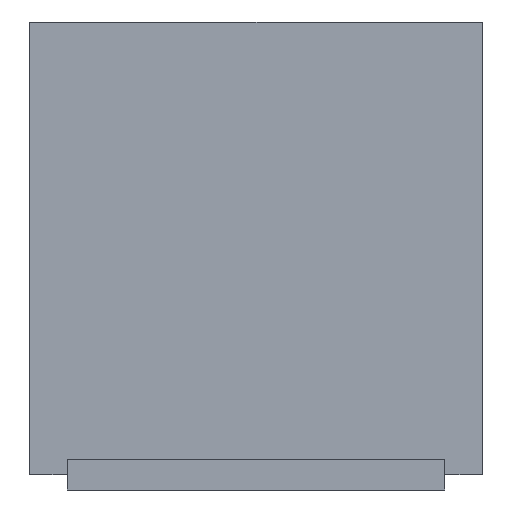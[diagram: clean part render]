
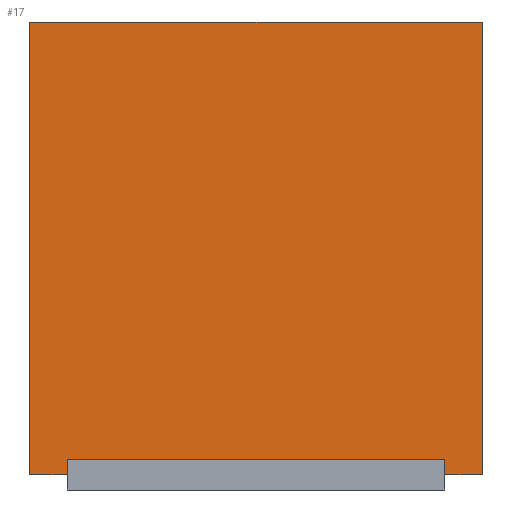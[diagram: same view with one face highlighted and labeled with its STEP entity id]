
A CAD part, left-side view. The second image highlights one B-rep face of the part: STEP entity #17.
In plain terms, the highlighted planar face has unit normal (-1, 0, 0).
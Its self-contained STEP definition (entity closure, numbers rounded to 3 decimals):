
#17 = ADVANCED_FACE('',(#18),#32,.F.);
#18 = FACE_BOUND('',#19,.F.);
#19 = EDGE_LOOP('',(#20,#55,#83,#111,#139,#167,#195,#218));
#20 = ORIENTED_EDGE('',*,*,#21,.F.);
#21 = EDGE_CURVE('',#22,#24,#26,.T.);
#22 = VERTEX_POINT('',#23);
#23 = CARTESIAN_POINT('',(546.,-30.,30.));
#24 = VERTEX_POINT('',#25);
#25 = CARTESIAN_POINT('',(546.,30.,30.));
#26 = SURFACE_CURVE('',#27,(#31,#43),.PCURVE_S1.);
#27 = LINE('',#28,#29);
#28 = CARTESIAN_POINT('',(546.,-30.,30.));
#29 = VECTOR('',#30,1.);
#30 = DIRECTION('',(0.,1.,0.));
#31 = PCURVE('',#32,#37);
#32 = PLANE('',#33);
#33 = AXIS2_PLACEMENT_3D('',#34,#35,#36);
#34 = CARTESIAN_POINT('',(546.,-30.,-30.));
#35 = DIRECTION('',(1.,0.,0.));
#36 = DIRECTION('',(0.,0.,1.));
#37 = DEFINITIONAL_REPRESENTATION('',(#38),#42);
#38 = LINE('',#39,#40);
#39 = CARTESIAN_POINT('',(60.,0.));
#40 = VECTOR('',#41,1.);
#41 = DIRECTION('',(0.,-1.));
#42 = ( GEOMETRIC_REPRESENTATION_CONTEXT(2) 
PARAMETRIC_REPRESENTATION_CONTEXT() REPRESENTATION_CONTEXT('2D SPACE',''
  ) );
#43 = PCURVE('',#44,#49);
#44 = PLANE('',#45);
#45 = AXIS2_PLACEMENT_3D('',#46,#47,#48);
#46 = CARTESIAN_POINT('',(546.,-30.,30.));
#47 = DIRECTION('',(0.,0.,1.));
#48 = DIRECTION('',(1.,0.,0.));
#49 = DEFINITIONAL_REPRESENTATION('',(#50),#54);
#50 = LINE('',#51,#52);
#51 = CARTESIAN_POINT('',(0.,0.));
#52 = VECTOR('',#53,1.);
#53 = DIRECTION('',(0.,1.));
#54 = ( GEOMETRIC_REPRESENTATION_CONTEXT(2) 
PARAMETRIC_REPRESENTATION_CONTEXT() REPRESENTATION_CONTEXT('2D SPACE',''
  ) );
#55 = ORIENTED_EDGE('',*,*,#56,.F.);
#56 = EDGE_CURVE('',#57,#22,#59,.T.);
#57 = VERTEX_POINT('',#58);
#58 = CARTESIAN_POINT('',(546.,-30.,-30.));
#59 = SURFACE_CURVE('',#60,(#64,#71),.PCURVE_S1.);
#60 = LINE('',#61,#62);
#61 = CARTESIAN_POINT('',(546.,-30.,-30.));
#62 = VECTOR('',#63,1.);
#63 = DIRECTION('',(0.,0.,1.));
#64 = PCURVE('',#32,#65);
#65 = DEFINITIONAL_REPRESENTATION('',(#66),#70);
#66 = LINE('',#67,#68);
#67 = CARTESIAN_POINT('',(0.,0.));
#68 = VECTOR('',#69,1.);
#69 = DIRECTION('',(1.,0.));
#70 = ( GEOMETRIC_REPRESENTATION_CONTEXT(2) 
PARAMETRIC_REPRESENTATION_CONTEXT() REPRESENTATION_CONTEXT('2D SPACE',''
  ) );
#71 = PCURVE('',#72,#77);
#72 = PLANE('',#73);
#73 = AXIS2_PLACEMENT_3D('',#74,#75,#76);
#74 = CARTESIAN_POINT('',(546.,-30.,-30.));
#75 = DIRECTION('',(0.,1.,0.));
#76 = DIRECTION('',(0.,0.,1.));
#77 = DEFINITIONAL_REPRESENTATION('',(#78),#82);
#78 = LINE('',#79,#80);
#79 = CARTESIAN_POINT('',(0.,0.));
#80 = VECTOR('',#81,1.);
#81 = DIRECTION('',(1.,0.));
#82 = ( GEOMETRIC_REPRESENTATION_CONTEXT(2) 
PARAMETRIC_REPRESENTATION_CONTEXT() REPRESENTATION_CONTEXT('2D SPACE',''
  ) );
#83 = ORIENTED_EDGE('',*,*,#84,.T.);
#84 = EDGE_CURVE('',#57,#85,#87,.T.);
#85 = VERTEX_POINT('',#86);
#86 = CARTESIAN_POINT('',(546.,-25.,-30.));
#87 = SURFACE_CURVE('',#88,(#92,#99),.PCURVE_S1.);
#88 = LINE('',#89,#90);
#89 = CARTESIAN_POINT('',(546.,-30.,-30.));
#90 = VECTOR('',#91,1.);
#91 = DIRECTION('',(0.,1.,0.));
#92 = PCURVE('',#32,#93);
#93 = DEFINITIONAL_REPRESENTATION('',(#94),#98);
#94 = LINE('',#95,#96);
#95 = CARTESIAN_POINT('',(0.,0.));
#96 = VECTOR('',#97,1.);
#97 = DIRECTION('',(0.,-1.));
#98 = ( GEOMETRIC_REPRESENTATION_CONTEXT(2) 
PARAMETRIC_REPRESENTATION_CONTEXT() REPRESENTATION_CONTEXT('2D SPACE',''
  ) );
#99 = PCURVE('',#100,#105);
#100 = PLANE('',#101);
#101 = AXIS2_PLACEMENT_3D('',#102,#103,#104);
#102 = CARTESIAN_POINT('',(546.,-30.,-30.));
#103 = DIRECTION('',(0.,0.,1.));
#104 = DIRECTION('',(1.,0.,0.));
#105 = DEFINITIONAL_REPRESENTATION('',(#106),#110);
#106 = LINE('',#107,#108);
#107 = CARTESIAN_POINT('',(0.,0.));
#108 = VECTOR('',#109,1.);
#109 = DIRECTION('',(0.,1.));
#110 = ( GEOMETRIC_REPRESENTATION_CONTEXT(2) 
PARAMETRIC_REPRESENTATION_CONTEXT() REPRESENTATION_CONTEXT('2D SPACE',''
  ) );
#111 = ORIENTED_EDGE('',*,*,#112,.T.);
#112 = EDGE_CURVE('',#85,#113,#115,.T.);
#113 = VERTEX_POINT('',#114);
#114 = CARTESIAN_POINT('',(546.,-25.,-28.));
#115 = SURFACE_CURVE('',#116,(#120,#127),.PCURVE_S1.);
#116 = LINE('',#117,#118);
#117 = CARTESIAN_POINT('',(546.,-25.,-32.));
#118 = VECTOR('',#119,1.);
#119 = DIRECTION('',(0.,0.,1.));
#120 = PCURVE('',#32,#121);
#121 = DEFINITIONAL_REPRESENTATION('',(#122),#126);
#122 = LINE('',#123,#124);
#123 = CARTESIAN_POINT('',(-2.,-5.));
#124 = VECTOR('',#125,1.);
#125 = DIRECTION('',(1.,0.));
#126 = ( GEOMETRIC_REPRESENTATION_CONTEXT(2) 
PARAMETRIC_REPRESENTATION_CONTEXT() REPRESENTATION_CONTEXT('2D SPACE',''
  ) );
#127 = PCURVE('',#128,#133);
#128 = PLANE('',#129);
#129 = AXIS2_PLACEMENT_3D('',#130,#131,#132);
#130 = CARTESIAN_POINT('',(446.,-25.,-32.));
#131 = DIRECTION('',(0.,1.,0.));
#132 = DIRECTION('',(0.,0.,1.));
#133 = DEFINITIONAL_REPRESENTATION('',(#134),#138);
#134 = LINE('',#135,#136);
#135 = CARTESIAN_POINT('',(0.,100.));
#136 = VECTOR('',#137,1.);
#137 = DIRECTION('',(1.,0.));
#138 = ( GEOMETRIC_REPRESENTATION_CONTEXT(2) 
PARAMETRIC_REPRESENTATION_CONTEXT() REPRESENTATION_CONTEXT('2D SPACE',''
  ) );
#139 = ORIENTED_EDGE('',*,*,#140,.T.);
#140 = EDGE_CURVE('',#113,#141,#143,.T.);
#141 = VERTEX_POINT('',#142);
#142 = CARTESIAN_POINT('',(546.,25.,-28.));
#143 = SURFACE_CURVE('',#144,(#148,#155),.PCURVE_S1.);
#144 = LINE('',#145,#146);
#145 = CARTESIAN_POINT('',(546.,-25.,-28.));
#146 = VECTOR('',#147,1.);
#147 = DIRECTION('',(0.,1.,0.));
#148 = PCURVE('',#32,#149);
#149 = DEFINITIONAL_REPRESENTATION('',(#150),#154);
#150 = LINE('',#151,#152);
#151 = CARTESIAN_POINT('',(2.,-5.));
#152 = VECTOR('',#153,1.);
#153 = DIRECTION('',(0.,-1.));
#154 = ( GEOMETRIC_REPRESENTATION_CONTEXT(2) 
PARAMETRIC_REPRESENTATION_CONTEXT() REPRESENTATION_CONTEXT('2D SPACE',''
  ) );
#155 = PCURVE('',#156,#161);
#156 = PLANE('',#157);
#157 = AXIS2_PLACEMENT_3D('',#158,#159,#160);
#158 = CARTESIAN_POINT('',(446.,-25.,-28.));
#159 = DIRECTION('',(0.,0.,1.));
#160 = DIRECTION('',(1.,0.,0.));
#161 = DEFINITIONAL_REPRESENTATION('',(#162),#166);
#162 = LINE('',#163,#164);
#163 = CARTESIAN_POINT('',(100.,0.));
#164 = VECTOR('',#165,1.);
#165 = DIRECTION('',(0.,1.));
#166 = ( GEOMETRIC_REPRESENTATION_CONTEXT(2) 
PARAMETRIC_REPRESENTATION_CONTEXT() REPRESENTATION_CONTEXT('2D SPACE',''
  ) );
#167 = ORIENTED_EDGE('',*,*,#168,.F.);
#168 = EDGE_CURVE('',#169,#141,#171,.T.);
#169 = VERTEX_POINT('',#170);
#170 = CARTESIAN_POINT('',(546.,25.,-30.));
#171 = SURFACE_CURVE('',#172,(#176,#183),.PCURVE_S1.);
#172 = LINE('',#173,#174);
#173 = CARTESIAN_POINT('',(546.,25.,-32.));
#174 = VECTOR('',#175,1.);
#175 = DIRECTION('',(0.,0.,1.));
#176 = PCURVE('',#32,#177);
#177 = DEFINITIONAL_REPRESENTATION('',(#178),#182);
#178 = LINE('',#179,#180);
#179 = CARTESIAN_POINT('',(-2.,-55.));
#180 = VECTOR('',#181,1.);
#181 = DIRECTION('',(1.,0.));
#182 = ( GEOMETRIC_REPRESENTATION_CONTEXT(2) 
PARAMETRIC_REPRESENTATION_CONTEXT() REPRESENTATION_CONTEXT('2D SPACE',''
  ) );
#183 = PCURVE('',#184,#189);
#184 = PLANE('',#185);
#185 = AXIS2_PLACEMENT_3D('',#186,#187,#188);
#186 = CARTESIAN_POINT('',(446.,25.,-32.));
#187 = DIRECTION('',(0.,1.,0.));
#188 = DIRECTION('',(0.,0.,1.));
#189 = DEFINITIONAL_REPRESENTATION('',(#190),#194);
#190 = LINE('',#191,#192);
#191 = CARTESIAN_POINT('',(0.,100.));
#192 = VECTOR('',#193,1.);
#193 = DIRECTION('',(1.,0.));
#194 = ( GEOMETRIC_REPRESENTATION_CONTEXT(2) 
PARAMETRIC_REPRESENTATION_CONTEXT() REPRESENTATION_CONTEXT('2D SPACE',''
  ) );
#195 = ORIENTED_EDGE('',*,*,#196,.T.);
#196 = EDGE_CURVE('',#169,#197,#199,.T.);
#197 = VERTEX_POINT('',#198);
#198 = CARTESIAN_POINT('',(546.,30.,-30.));
#199 = SURFACE_CURVE('',#200,(#204,#211),.PCURVE_S1.);
#200 = LINE('',#201,#202);
#201 = CARTESIAN_POINT('',(546.,-30.,-30.));
#202 = VECTOR('',#203,1.);
#203 = DIRECTION('',(0.,1.,0.));
#204 = PCURVE('',#32,#205);
#205 = DEFINITIONAL_REPRESENTATION('',(#206),#210);
#206 = LINE('',#207,#208);
#207 = CARTESIAN_POINT('',(0.,0.));
#208 = VECTOR('',#209,1.);
#209 = DIRECTION('',(0.,-1.));
#210 = ( GEOMETRIC_REPRESENTATION_CONTEXT(2) 
PARAMETRIC_REPRESENTATION_CONTEXT() REPRESENTATION_CONTEXT('2D SPACE',''
  ) );
#211 = PCURVE('',#100,#212);
#212 = DEFINITIONAL_REPRESENTATION('',(#213),#217);
#213 = LINE('',#214,#215);
#214 = CARTESIAN_POINT('',(0.,0.));
#215 = VECTOR('',#216,1.);
#216 = DIRECTION('',(0.,1.));
#217 = ( GEOMETRIC_REPRESENTATION_CONTEXT(2) 
PARAMETRIC_REPRESENTATION_CONTEXT() REPRESENTATION_CONTEXT('2D SPACE',''
  ) );
#218 = ORIENTED_EDGE('',*,*,#219,.T.);
#219 = EDGE_CURVE('',#197,#24,#220,.T.);
#220 = SURFACE_CURVE('',#221,(#225,#232),.PCURVE_S1.);
#221 = LINE('',#222,#223);
#222 = CARTESIAN_POINT('',(546.,30.,-30.));
#223 = VECTOR('',#224,1.);
#224 = DIRECTION('',(0.,0.,1.));
#225 = PCURVE('',#32,#226);
#226 = DEFINITIONAL_REPRESENTATION('',(#227),#231);
#227 = LINE('',#228,#229);
#228 = CARTESIAN_POINT('',(0.,-60.));
#229 = VECTOR('',#230,1.);
#230 = DIRECTION('',(1.,0.));
#231 = ( GEOMETRIC_REPRESENTATION_CONTEXT(2) 
PARAMETRIC_REPRESENTATION_CONTEXT() REPRESENTATION_CONTEXT('2D SPACE',''
  ) );
#232 = PCURVE('',#233,#238);
#233 = PLANE('',#234);
#234 = AXIS2_PLACEMENT_3D('',#235,#236,#237);
#235 = CARTESIAN_POINT('',(546.,30.,-30.));
#236 = DIRECTION('',(0.,1.,0.));
#237 = DIRECTION('',(0.,0.,1.));
#238 = DEFINITIONAL_REPRESENTATION('',(#239),#243);
#239 = LINE('',#240,#241);
#240 = CARTESIAN_POINT('',(0.,0.));
#241 = VECTOR('',#242,1.);
#242 = DIRECTION('',(1.,0.));
#243 = ( GEOMETRIC_REPRESENTATION_CONTEXT(2) 
PARAMETRIC_REPRESENTATION_CONTEXT() REPRESENTATION_CONTEXT('2D SPACE',''
  ) );
